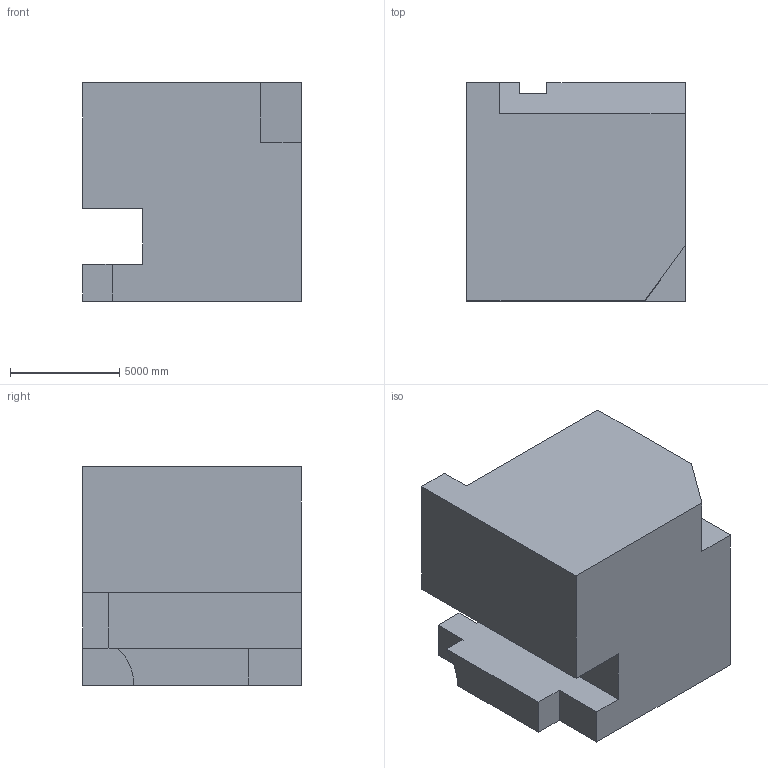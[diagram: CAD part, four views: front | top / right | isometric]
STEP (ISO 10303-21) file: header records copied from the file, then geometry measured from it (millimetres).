
FILE_DESCRIPTION (( 'STEP AP203' ), '1' );
FILE_NAME ('1627.STEP', '2022-08-19T11:09:43', ( 'user' ), ( '' ), 'SwSTEP 2.0', 'SolidWorks 2021', '' );
FILE_SCHEMA (( 'CONFIG_CONTROL_DESIGN' ));
Length unit declared in the file: centimetre
Products named in the file (1): 1627
Bounding box: 10000 x 10000 x 10000 mm (x, y, z)
Volume: 875694596740.7 mm3; surface area: 654743529.6 mm2
Topology: 1 solids, 1 shells, 32 faces, 87 edges, 58 vertices
Faces by surface type: plane 31, cylinder 1
Entity records: 1070 total; most frequent: CARTESIAN_POINT 178, ORIENTED_EDGE 174, DIRECTION 155, EDGE_CURVE 87, VECTOR 85, LINE 85, VERTEX_POINT 58, AXIS2_PLACEMENT_3D 35
